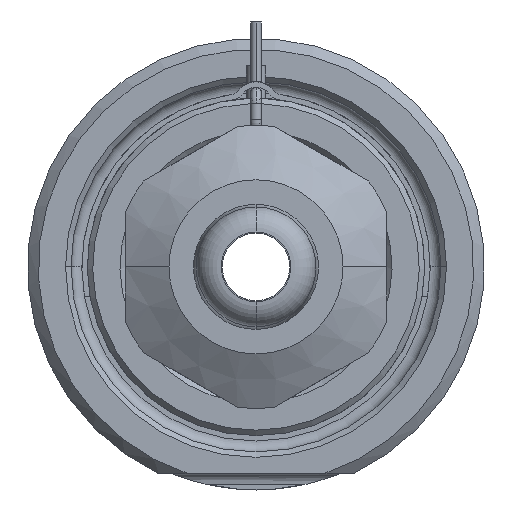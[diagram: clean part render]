
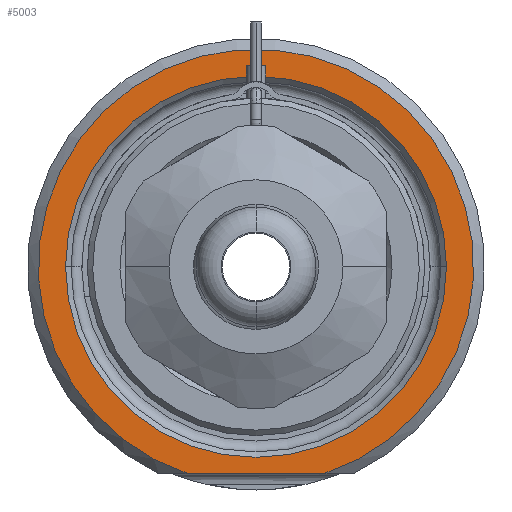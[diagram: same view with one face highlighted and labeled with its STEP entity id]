
A CAD part, front view. The second image highlights one B-rep face of the part: STEP entity #5003.
In plain terms, the highlighted planar face has unit normal (0, -1, 0).
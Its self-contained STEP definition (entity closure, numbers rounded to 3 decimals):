
#1571=DIRECTION('',(1.,0.,0.));
#1572=VECTOR('',#1571,12.49);
#1573=CARTESIAN_POINT('',(-6.245,0.,-19.));
#1574=LINE('',#1573,#1572);
#1575=CARTESIAN_POINT('',(0.,0.,0.));
#1576=DIRECTION('',(0.,1.,0.));
#1577=DIRECTION('',(-1.,0.,0.));
#1578=AXIS2_PLACEMENT_3D('',#1575,#1576,#1577);
#1580=CARTESIAN_POINT('',(0.,0.,0.));
#1581=DIRECTION('',(0.,1.,0.));
#1582=DIRECTION('',(1.,0.,0.));
#1583=AXIS2_PLACEMENT_3D('',#1580,#1581,#1582);
#1689=CARTESIAN_POINT('',(0.,0.,0.));
#1690=DIRECTION('',(0.,-1.,0.));
#1691=DIRECTION('',(0.312,0.,-0.95));
#1692=AXIS2_PLACEMENT_3D('',#1689,#1690,#1691);
#2709=CARTESIAN_POINT('',(-17.5,0.,0.));
#2710=CARTESIAN_POINT('',(17.5,0.,0.));
#2711=VERTEX_POINT('',#2709);
#2712=VERTEX_POINT('',#2710);
#2767=CARTESIAN_POINT('',(-6.245,0.,-19.));
#2768=CARTESIAN_POINT('',(6.245,0.,-19.));
#2769=VERTEX_POINT('',#2767);
#2770=VERTEX_POINT('',#2768);
#4987=CARTESIAN_POINT('',(0.,0.,0.));
#4988=DIRECTION('',(0.,-1.,0.));
#4989=DIRECTION('',(1.,0.,0.));
#4990=AXIS2_PLACEMENT_3D('',#4987,#4988,#4989);
#4991=PLANE('',#4990);
#4993=ORIENTED_EDGE('',*,*,#4992,.F.);
#4995=ORIENTED_EDGE('',*,*,#4994,.F.);
#4996=EDGE_LOOP('',(#4993,#4995));
#4997=FACE_OUTER_BOUND('',#4996,.F.);
#4998=ORIENTED_EDGE('',*,*,#4977,.F.);
#5000=ORIENTED_EDGE('',*,*,#4999,.F.);
#5001=EDGE_LOOP('',(#4998,#5000));
#5002=FACE_BOUND('',#5001,.F.);
#5003=ADVANCED_FACE('',(#4997,#5002),#4991,.T.);
#1579=CIRCLE('',#1578,17.5);
#1584=CIRCLE('',#1583,17.5);
#1693=CIRCLE('',#1692,20.);
#4977=EDGE_CURVE('',#2711,#2712,#1579,.T.);
#4992=EDGE_CURVE('',#2769,#2770,#1574,.T.);
#4994=EDGE_CURVE('',#2770,#2769,#1693,.T.);
#4999=EDGE_CURVE('',#2712,#2711,#1584,.T.);
